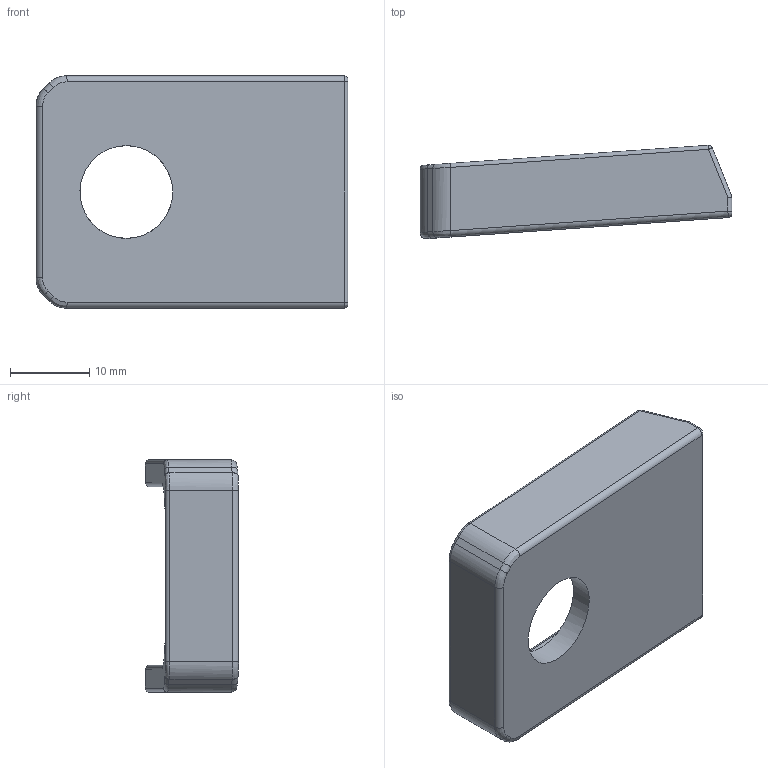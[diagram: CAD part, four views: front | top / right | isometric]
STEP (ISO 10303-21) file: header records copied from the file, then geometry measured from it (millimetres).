
FILE_DESCRIPTION(/* description */ (''),/* implementation_level */ '2;1');
FILE_NAME(/* name */ 'E:\MenMag v2.0\Menendez Magazine Pack v2.0\STEP\Baseplate - G17 Angle v2.0.stp',/* time_stamp */ '2021-03-22T14:31:40-05:00',/* author */ ('johne'),/* organization */ (''),/* preprocessor_version */ 'ST-DEVELOPER v18',/* originating_system */ 'Autodesk Inventor 2020',/* authorisation */ '');
FILE_SCHEMA (('AUTOMOTIVE_DESIGN { 1 0 10303 214 3 1 1 }'));
Length unit declared in the file: inch
Products named in the file (1): Menendez Mag Baseplate v2.0
Bounding box: 39.32 x 11.73 x 29.29 mm (x, y, z)
Volume: 4139.8 mm3; surface area: 3926.9 mm2
Topology: 1 solids, 1 shells, 97 faces, 231 edges, 136 vertices
Faces by surface type: cylinder 49, bspline 20, plane 20, torus 6, sphere 2
Full cylindrical faces by diameter (mm): 11.684 x1
Entity records: 3310 total; most frequent: CARTESIAN_POINT 1029, DIRECTION 487, ORIENTED_EDGE 462, EDGE_CURVE 231, AXIS2_PLACEMENT_3D 192, VERTEX_POINT 136, LINE 103, VECTOR 103
